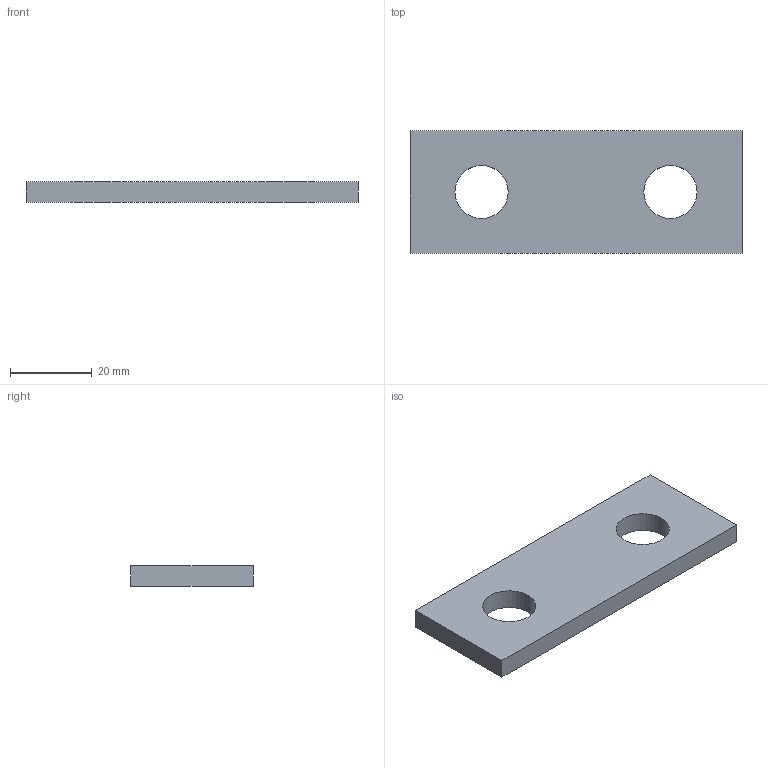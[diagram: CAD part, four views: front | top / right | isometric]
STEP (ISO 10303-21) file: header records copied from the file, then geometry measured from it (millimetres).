
FILE_DESCRIPTION(('STEP AP214'),'1');
FILE_NAME(' ',' ',('TraceParts'),('TraceParts S.A.'),'XStep 1.0',' ',' ');
FILE_SCHEMA(('automotive_design'));
Length unit declared in the file: millimetre
Products named in the file (1): UHV
Bounding box: 81.2 x 30 x 5 mm (x, y, z)
Volume: 10852.7 mm3; surface area: 5861.5 mm2
Topology: 1 solids, 1 shells, 10 faces, 24 edges, 16 vertices
Faces by surface type: plane 6, cylinder 4
Entity records: 319 total; most frequent: DIRECTION 54, CARTESIAN_POINT 51, ORIENTED_EDGE 48, EDGE_CURVE 24, AXIS2_PLACEMENT_3D 19, VERTEX_POINT 16, LINE 16, VECTOR 16
